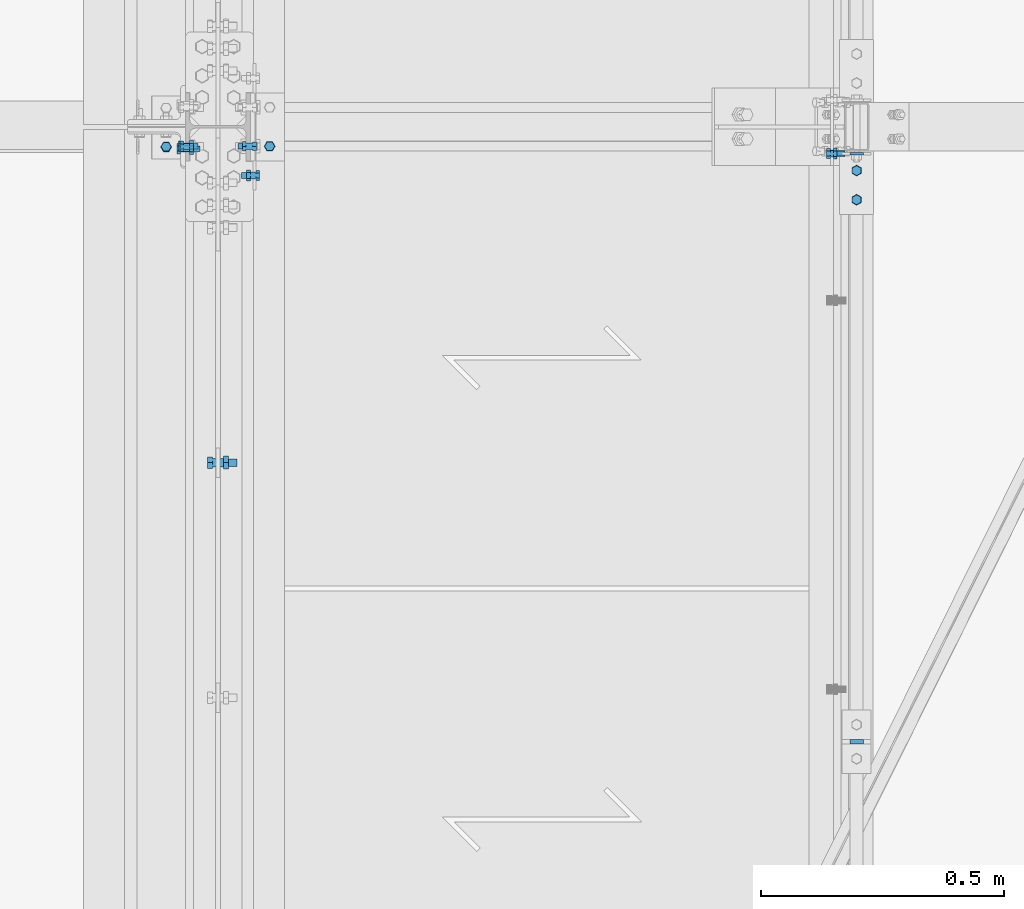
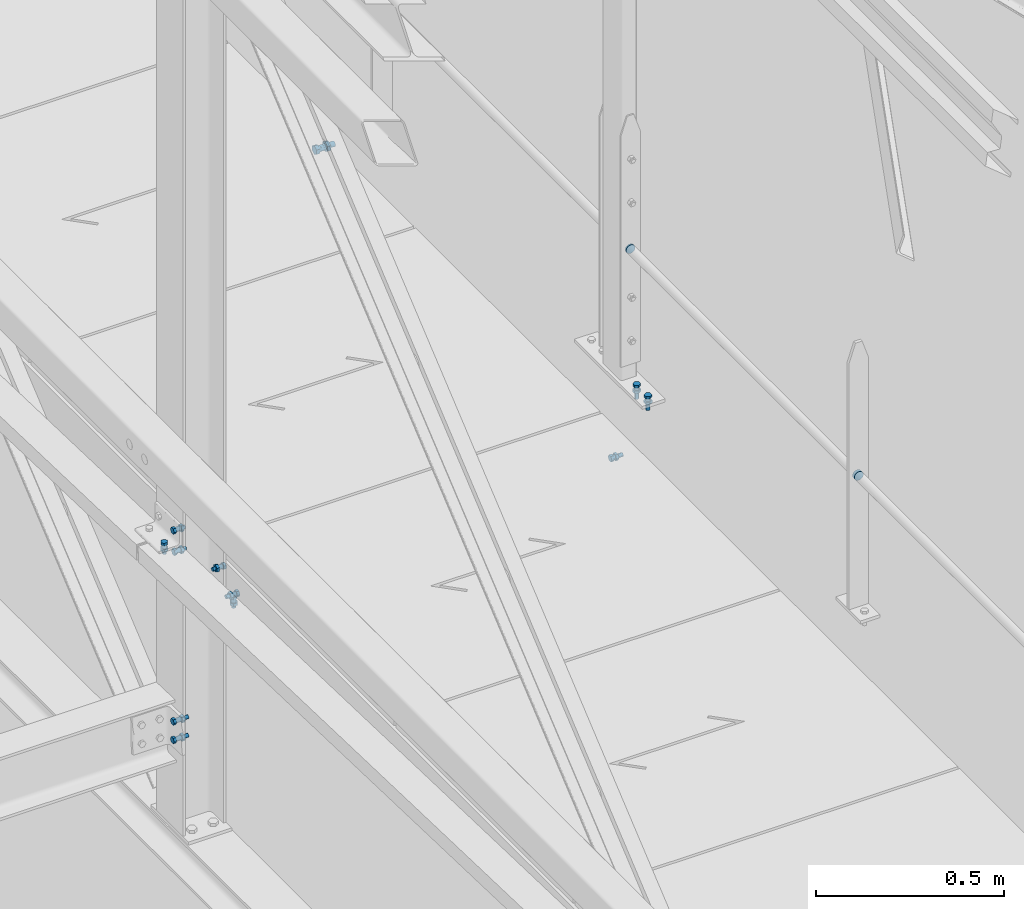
# One storey, part 326 of 362: 13 mechanical fasteners.
"""IFC2X3 building model written with IfcOpenShell, lengths in millimetres."""

from ifc_helpers import new_model, si_unit, frame, origin_with_axes, origin_2d_with_axis, place, context, subcontext, project, spatial, polyline, circle, outline, extrude, source, transform, mapped, material, type_object, element, save


model = new_model("IFC2X3")

# Units and contexts
model_context = context("Model", 3, precision=1e-05, world=origin_with_axes())
body_context = subcontext(model_context, "Body", "Model", "MODEL_VIEW")
ifc_project = project(units=[si_unit("LENGTHUNIT", "METRE", prefix="MILLI"), si_unit("AREAUNIT", "SQUARE_METRE"), si_unit("VOLUMEUNIT", "CUBIC_METRE"), si_unit("MASSUNIT", "GRAM", prefix="KILO"), si_unit("TIMEUNIT", "SECOND"), si_unit("PLANEANGLEUNIT", "RADIAN"), si_unit("SOLIDANGLEUNIT", "STERADIAN"), si_unit("THERMODYNAMICTEMPERATUREUNIT", "DEGREE_CELSIUS"), si_unit("LUMINOUSINTENSITYUNIT", "LUMEN")], contexts=[model_context])

# Site, building, storey
site_placement = place(None, origin_with_axes())
site = spatial("IfcSite", under=ifc_project, at=site_placement, Name="Undefined", CompositionType="ELEMENT")
building_placement = place(site_placement, origin_with_axes())
building = spatial("IfcBuilding", under=site, at=building_placement, Name="Undefined", CompositionType="ELEMENT")
storey_placement = place(building_placement, origin_with_axes())
storey = spatial("IfcBuildingStorey", under=building, at=storey_placement, Name="Undefined", CompositionType="ELEMENT", Elevation=0.0)

# Mechanical fasteners
ifc_material_1 = material(Name="8.8-SB-ZINGUE")
mechanical_fastener_type = type_object("IfcMechanicalFastenerType", Name="Bolt assembly")
shared_shape_1 = source(origin_with_axes(), body_context, "Body", "SweptSolid", [
    extrude(circle(Radius=9.0, at=origin_2d_with_axis()), frame((0.0, -10.9000000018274, 0.0), z_axis=(0.0, 1.0, 0.0), x_axis=(1.0, 0.0, 0.0)), (0.0, 0.0, 1.0), 6.0),
    extrude(circle(Radius=9.0, at=origin_2d_with_axis()), frame((0.0, 4.9000000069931, 0.0), z_axis=(0.0, 1.0, 0.0), x_axis=(1.0, 0.0, 0.0)), (0.0, 0.0, 1.0), 6.1),
    extrude(circle(Radius=9.0, at=origin_2d_with_axis()), frame((0.0, -3.99999923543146, 0.0), z_axis=(0.0, 1.0, 0.0), x_axis=(1.0, 0.0, 0.0)), (0.0, 0.0, 1.0), 8.0),
    extrude(outline(polyline([(13.85640646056, 0.0), (6.92820323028, 12.0000000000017), (-6.92820323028, 12.0000000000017), (-13.85640646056, 0.0), (-6.92820323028, -12.0000000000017), (6.92820323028, -12.0000000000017), (13.85640646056, 0.0)])), frame((0.0, -21.5600000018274, 0.0), z_axis=(0.0, 1.0, 0.0), x_axis=(1.0, 0.0, 0.0)), (0.0, 0.0, 1.0), 10.56),
    extrude(circle(Radius=8.0, at=origin_2d_with_axis()), frame((0.0, -11.0000000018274, 0.0), z_axis=(0.0, 1.0, 0.0), x_axis=(1.0, 0.0, 0.0)), (0.0, 0.0, 1.0), 50.0),
    extrude(outline(polyline([(15.3344231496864, 0.0), (7.6672115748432, 13.2800000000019), (-7.6672115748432, 13.2800000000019), (-15.3344231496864, 0.0), (-7.6672115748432, -13.2800000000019), (7.6672115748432, -13.2800000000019), (15.3344231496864, 0.0)])), frame((0.0, 11.0000000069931, 0.0), z_axis=(0.0, 1.0, 0.0), x_axis=(1.0, 0.0, 0.0)), (0.0, 0.0, 1.0), 10.56),
])
mechanical_fastener_1_placement = place(storey_placement, frame((34280.0, 10709.1073083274, 9846.10460240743), z_axis=(0.0, 1.0, 0.0), x_axis=(0.0, 0.0, 1.0)))
element("IfcMechanicalFastener", 1, at=mechanical_fastener_1_placement, inside=storey, type_object=mechanical_fastener_type, material=ifc_material_1, Name="Bolt assembly", NominalDiameter=16.0, NominalLength=50.0, context=body_context, shape_type="MappedRepresentation", body=[
    mapped(shared_shape_1, transform((0.0, 0.0, 0.0))),
])
shared_shape_2 = source(origin_with_axes(), body_context, "Body", "SweptSolid", [
    extrude(circle(Radius=7.0, at=origin_2d_with_axis()), frame((0.0, -10.0000010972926, 0.0), z_axis=(0.0, 1.0, 0.0), x_axis=(1.0, 0.0, 0.0)), (0.0, 0.0, 1.0), 10.1),
    extrude(outline(polyline([(10.39230484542, 0.0), (5.19615242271, 9.00000000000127), (-5.19615242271, 9.00000000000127), (-10.39230484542, 0.0), (-5.19615242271, -9.00000000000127), (5.19615242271, -9.00000000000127), (10.39230484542, 0.0)])), frame((0.0, -17.92, 0.0), z_axis=(0.0, 1.0, 0.0), x_axis=(1.0, 0.0, 0.0)), (0.0, 0.0, 1.0), 7.92),
    extrude(circle(Radius=6.0, at=origin_2d_with_axis()), frame((0.0, -10.0000010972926, 0.0), z_axis=(0.0, 1.0, 0.0), x_axis=(1.0, 0.0, 0.0)), (0.0, 0.0, 1.0), 40.0),
    extrude(outline(polyline([(11.5008173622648, 0.0), (5.7504086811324, 9.96000000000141), (-5.7504086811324, 9.96000000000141), (-11.5008173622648, 0.0), (-5.7504086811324, -9.96000000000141), (5.7504086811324, -9.96000000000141), (11.5008173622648, 0.0)])), frame((0.0, 0.0, 0.0), z_axis=(0.0, 1.0, 0.0), x_axis=(1.0, 0.0, 0.0)), (0.0, 0.0, 1.0), 7.92),
])
mechanical_fastener_2_placement = place(storey_placement, frame((35593.9917140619, 11250.000106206, 8240.00002612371), z_axis=(-1.0, 0.0, 0.0), x_axis=(0.0, 1.0, 0.0)))
element("IfcMechanicalFastener", 2, at=mechanical_fastener_2_placement, inside=storey, type_object=mechanical_fastener_type, material=ifc_material_1, Name="Bolt assembly", NominalDiameter=12.0, NominalLength=40.0, context=body_context, shape_type="MappedRepresentation", body=[
    mapped(shared_shape_2, transform((0.0, 0.0, 0.0))),
    mapped(shared_shape_2, transform((60.0, 0.0, 0.0))),
])
ifc_material_2 = material(Name="6.8")
shared_shape_3 = source(origin_with_axes(), body_context, "Body", "SweptSolid", [
    extrude(circle(Radius=14.0, at=origin_2d_with_axis()), frame((0.0, -5.00000000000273, 0.0), z_axis=(0.0, 1.0, 0.0), x_axis=(1.0, 0.0, 0.0)), (0.0, 0.0, 1.0), 10.1),
])
mechanical_fastener_3_placement = place(storey_placement, frame((35593.9917188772, 10135.0034325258, 8673.80000023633), z_axis=(0.0, 0.0, 1.0), x_axis=(-1.0, 0.0, 0.0)))
element("IfcMechanicalFastener", 3, at=mechanical_fastener_3_placement, inside=storey, type_object=mechanical_fastener_type, material=ifc_material_2, Name="Bolt assembly", NominalDiameter=27.0, NominalLength=10.0, context=body_context, shape_type="MappedRepresentation", body=[
    mapped(shared_shape_3, transform((0.0, 0.0, 0.0))),
])
shared_shape_4 = source(origin_with_axes(), body_context, "Body", "SweptSolid", [
    extrude(circle(Radius=7.0, at=origin_2d_with_axis()), frame((0.0, -4.90000000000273, 0.0), z_axis=(0.0, 1.0, 0.0), x_axis=(1.0, 0.0, 0.0)), (0.0, 0.0, 1.0), 5.0),
    extrude(circle(Radius=7.0, at=origin_2d_with_axis()), frame((0.0, -0.100011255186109, 0.0), z_axis=(0.0, 1.0, 0.0), x_axis=(1.0, 0.0, 0.0)), (0.0, 0.0, 1.0), 7.1),
    extrude(outline(polyline([(10.39230484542, 0.0), (5.19615242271, 9.00000000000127), (-5.19615242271, 9.00000000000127), (-10.39230484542, 0.0), (-5.19615242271, -9.00000000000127), (5.19615242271, -9.00000000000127), (10.39230484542, 0.0)])), frame((0.0, -12.9200004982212, 0.0), z_axis=(0.0, 1.0, 0.0), x_axis=(1.0, 0.0, 0.0)), (0.0, 0.0, 1.0), 7.92),
    extrude(circle(Radius=6.0, at=origin_2d_with_axis()), frame((0.0, -5.00000000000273, 0.0), z_axis=(0.0, 1.0, 0.0), x_axis=(1.0, 0.0, 0.0)), (0.0, 0.0, 1.0), 30.0),
    extrude(outline(polyline([(11.5008173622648, 0.0), (5.7504086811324, 9.96000000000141), (-5.7504086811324, 9.96000000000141), (-11.5008173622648, 0.0), (-5.7504086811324, -9.96000000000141), (5.7504086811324, -9.96000000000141), (11.5008173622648, 0.0)])), frame((0.0, 7.0, 0.0), z_axis=(0.0, 1.0, 0.0), x_axis=(1.0, 0.0, 0.0)), (0.0, 0.0, 1.0), 7.92),
])
mechanical_fastener_4_placement = place(storey_placement, frame((34386.5000576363, 11359.9999999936, 7950.00000000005), z_axis=(0.0, -1.0, 0.0), x_axis=(-1.0, 0.0, 0.0)))
element("IfcMechanicalFastener", 4, at=mechanical_fastener_4_placement, inside=storey, type_object=mechanical_fastener_type, material=ifc_material_1, Name="Bolt assembly", NominalDiameter=12.0, NominalLength=30.0, context=body_context, shape_type="MappedRepresentation", body=[
    mapped(shared_shape_4, transform((0.0, 0.0, 0.0))),
])
shared_shape_5 = source(origin_with_axes(), body_context, "Body", "SweptSolid", [
    extrude(circle(Radius=14.0, at=origin_2d_with_axis()), frame((0.0, -2.5, 0.0), z_axis=(0.0, 1.0, 0.0), x_axis=(1.0, 0.0, 0.0)), (0.0, 0.0, 1.0), 5.1),
])
mechanical_fastener_5_placement = place(storey_placement, frame((35593.9917197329, 11344.9999942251, 8673.79999937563), z_axis=(0.0, 0.0, 1.0), x_axis=(-1.0, 0.0, 0.0)))
element("IfcMechanicalFastener", 5, at=mechanical_fastener_5_placement, inside=storey, type_object=mechanical_fastener_type, material=ifc_material_2, Name="Bolt assembly", NominalDiameter=27.0, NominalLength=10.0, context=body_context, shape_type="MappedRepresentation", body=[
    mapped(shared_shape_5, transform((0.0, 0.0, 0.0))),
])
shared_shape_6 = source(origin_with_axes(), body_context, "Body", "SweptSolid", [
    extrude(circle(Radius=7.0, at=origin_2d_with_axis()), frame((0.0, -6.5, 0.0), z_axis=(0.0, 1.0, 0.0), x_axis=(1.0, 0.0, 0.0)), (0.0, 0.0, 1.0), 6.1),
    extrude(outline(polyline([(10.39230484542, 0.0), (5.19615242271, 9.00000000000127), (-5.19615242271, 9.00000000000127), (-10.39230484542, 0.0), (-5.19615242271, -9.00000000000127), (5.19615242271, -9.00000000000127), (10.39230484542, 0.0)])), frame((0.0, -14.42, 0.0), z_axis=(0.0, 1.0, 0.0), x_axis=(1.0, 0.0, 0.0)), (0.0, 0.0, 1.0), 7.92),
    extrude(circle(Radius=6.0, at=origin_2d_with_axis()), frame((0.0, -6.5, 0.0), z_axis=(0.0, 1.0, 0.0), x_axis=(1.0, 0.0, 0.0)), (0.0, 0.0, 1.0), 30.0),
    extrude(outline(polyline([(11.5008173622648, 0.0), (5.7504086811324, 9.96000000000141), (-5.7504086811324, 9.96000000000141), (-11.5008173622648, 0.0), (-5.7504086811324, -9.96000000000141), (5.7504086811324, -9.96000000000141), (11.5008173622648, 0.0)])), frame((0.0, -0.5, 0.0), z_axis=(0.0, 1.0, 0.0), x_axis=(1.0, 0.0, 0.0)), (0.0, 0.0, 1.0), 7.92),
])
mechanical_fastener_6_placement = place(storey_placement, frame((35546.4917140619, 11344.9999999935, 8015.00000000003), z_axis=(0.0, 0.0, -1.0), x_axis=(0.0, 1.0, 0.0)))
element("IfcMechanicalFastener", 6, at=mechanical_fastener_6_placement, inside=storey, type_object=mechanical_fastener_type, material=ifc_material_1, Name="Bolt assembly", NominalDiameter=12.0, NominalLength=30.0, context=body_context, shape_type="MappedRepresentation", body=[
    mapped(shared_shape_6, transform((0.0, 0.0, 0.0))),
])
shared_shape_7 = source(origin_with_axes(), body_context, "Body", "SweptSolid", [
    extrude(circle(Radius=7.0, at=origin_2d_with_axis()), frame((0.0, -0.107944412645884, 0.0), z_axis=(0.0, 1.0, 0.0), x_axis=(1.0, 0.0, 0.0)), (0.0, 0.0, 1.0), 5.1),
    extrude(circle(Radius=7.0, at=origin_2d_with_axis()), frame((0.0, -6.4, 0.0), z_axis=(0.0, 1.0, 0.0), x_axis=(1.0, 0.0, 0.0)), (0.0, 0.0, 1.0), 6.0),
    extrude(outline(polyline([(10.39230484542, 0.0), (5.19615242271, 9.00000000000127), (-5.19615242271, 9.00000000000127), (-10.39230484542, 0.0), (-5.19615242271, -9.00000000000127), (5.19615242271, -9.00000000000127), (10.39230484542, 0.0)])), frame((0.0, -14.42, 0.0), z_axis=(0.0, 1.0, 0.0), x_axis=(1.0, 0.0, 0.0)), (0.0, 0.0, 1.0), 7.92),
    extrude(circle(Radius=6.0, at=origin_2d_with_axis()), frame((0.0, -6.5, 0.0), z_axis=(0.0, 1.0, 0.0), x_axis=(1.0, 0.0, 0.0)), (0.0, 0.0, 1.0), 30.0),
    extrude(outline(polyline([(11.5008173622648, 0.0), (5.7504086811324, 9.96000000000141), (-5.7504086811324, 9.96000000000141), (-11.5008173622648, 0.0), (-5.7504086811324, -9.96000000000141), (5.7504086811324, -9.96000000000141), (11.5008173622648, 0.0)])), frame((0.0, 4.99205558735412, 0.0), z_axis=(0.0, 1.0, 0.0), x_axis=(1.0, 0.0, 0.0)), (0.0, 0.0, 1.0), 7.92),
])
mechanical_fastener_7_placement = place(storey_placement, frame((34351.491943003, 11299.9999999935, 8015.00000000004), z_axis=(0.0, 0.0, 1.0), x_axis=(0.0, 1.0, 0.0)))
element("IfcMechanicalFastener", 7, at=mechanical_fastener_7_placement, inside=storey, type_object=mechanical_fastener_type, material=ifc_material_1, Name="Bolt assembly", NominalDiameter=12.0, NominalLength=30.0, context=body_context, shape_type="MappedRepresentation", body=[
    mapped(shared_shape_7, transform((0.0, 0.0, 0.0))),
])
shared_shape_8 = source(origin_with_axes(), body_context, "Body", "SweptSolid", [
    extrude(circle(Radius=7.0, at=origin_2d_with_axis()), frame((0.0, -0.0999426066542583, 0.0), z_axis=(0.0, 1.0, 0.0), x_axis=(1.0, 0.0, 0.0)), (0.0, 0.0, 1.0), 8.6),
    extrude(circle(Radius=7.0, at=origin_2d_with_axis()), frame((0.0, -4.89983187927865, 0.0), z_axis=(0.0, 1.0, 0.0), x_axis=(1.0, 0.0, 0.0)), (0.0, 0.0, 1.0), 5.0),
    extrude(outline(polyline([(10.39230484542, 0.0), (5.19615242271, 9.00000000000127), (-5.19615242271, 9.00000000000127), (-10.39230484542, 0.0), (-5.19615242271, -9.00000000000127), (5.19615242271, -9.00000000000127), (10.39230484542, 0.0)])), frame((0.0, -12.9198318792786, 0.0), z_axis=(0.0, 1.0, 0.0), x_axis=(1.0, 0.0, 0.0)), (0.0, 0.0, 1.0), 7.92),
    extrude(circle(Radius=6.0, at=origin_2d_with_axis()), frame((0.0, -4.99983187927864, 0.0), z_axis=(0.0, 1.0, 0.0), x_axis=(1.0, 0.0, 0.0)), (0.0, 0.0, 1.0), 30.0),
    extrude(outline(polyline([(11.5008173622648, 0.0), (5.7504086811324, 9.96000000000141), (-5.7504086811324, 9.96000000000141), (-11.5008173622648, 0.0), (-5.7504086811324, -9.96000000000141), (5.7504086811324, -9.96000000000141), (11.5008173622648, 0.0)])), frame((0.0, 8.50005763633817, 0.0), z_axis=(0.0, 1.0, 0.0), x_axis=(1.0, 0.0, 0.0)), (0.0, 0.0, 1.0), 7.92),
])
mechanical_fastener_8_placement = place(storey_placement, frame((34346.5000576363, 11360.0000009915, 8070.00000000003), z_axis=(0.0, 1.0, 0.0), x_axis=(0.0, 0.0, -1.0)))
element("IfcMechanicalFastener", 8, at=mechanical_fastener_8_placement, inside=storey, type_object=mechanical_fastener_type, material=ifc_material_1, Name="Bolt assembly", NominalDiameter=12.0, NominalLength=30.0, context=body_context, shape_type="MappedRepresentation", body=[
    mapped(shared_shape_8, transform((0.0, 0.0, 0.0))),
])
shared_shape_9 = source(origin_with_axes(), body_context, "Body", "SweptSolid", [
    extrude(circle(Radius=7.0, at=origin_2d_with_axis()), frame((0.0, -1.35657197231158, 0.0), z_axis=(0.0, 1.0, 0.0), x_axis=(1.0, 0.0, 0.0)), (0.0, 0.0, 1.0), 4.1),
    extrude(circle(Radius=7.0, at=origin_2d_with_axis()), frame((0.0, -8.15654244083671, 0.0), z_axis=(0.0, 1.0, 0.0), x_axis=(1.0, 0.0, 0.0)), (0.0, 0.0, 1.0), 7.0),
    extrude(outline(polyline([(10.39230484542, 0.0), (5.19615242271, 9.00000000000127), (-5.19615242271, 9.00000000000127), (-10.39230484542, 0.0), (-5.19615242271, -9.00000000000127), (5.19615242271, -9.00000000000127), (10.39230484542, 0.0)])), frame((0.0, -16.1765424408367, 0.0), z_axis=(0.0, 1.0, 0.0), x_axis=(1.0, 0.0, 0.0)), (0.0, 0.0, 1.0), 7.92),
    extrude(circle(Radius=6.0, at=origin_2d_with_axis()), frame((0.0, -8.25654244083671, 0.0), z_axis=(0.0, 1.0, 0.0), x_axis=(1.0, 0.0, 0.0)), (0.0, 0.0, 1.0), 30.0),
    extrude(outline(polyline([(11.5008173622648, 0.0), (5.7504086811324, 9.96000000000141), (-5.7504086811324, 9.96000000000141), (-11.5008173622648, 0.0), (-5.7504086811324, -9.96000000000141), (5.7504086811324, -9.96000000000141), (11.5008173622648, 0.0)])), frame((0.0, 2.74342802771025, 0.0), z_axis=(0.0, 1.0, 0.0), x_axis=(1.0, 0.0, 0.0)), (0.0, 0.0, 1.0), 7.92),
])
mechanical_fastener_9_placement = place(storey_placement, frame((34173.5002326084, 11358.7434557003, 8197.04057146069), z_axis=(3.14103090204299e-11, 0.999506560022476, -0.0314107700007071), x_axis=(1.0, 0.0, 0.0)))
element("IfcMechanicalFastener", 9, at=mechanical_fastener_9_placement, inside=storey, type_object=mechanical_fastener_type, material=ifc_material_1, Name="Bolt assembly", NominalDiameter=12.0, NominalLength=30.0, context=body_context, shape_type="MappedRepresentation", body=[
    mapped(shared_shape_9, transform((0.0, 0.0, 0.0))),
])
shared_shape_10 = source(origin_with_axes(), body_context, "Body", "SweptSolid", [
    extrude(circle(Radius=7.0, at=origin_2d_with_axis()), frame((0.0, -0.10007666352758, 0.0), z_axis=(0.0, 1.0, 0.0), x_axis=(1.0, 0.0, 0.0)), (0.0, 0.0, 1.0), 8.6),
    extrude(circle(Radius=7.0, at=origin_2d_with_axis()), frame((0.0, -6.9, 0.0), z_axis=(0.0, 1.0, 0.0), x_axis=(1.0, 0.0, 0.0)), (0.0, 0.0, 1.0), 7.0),
    extrude(outline(polyline([(10.39230484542, 0.0), (5.19615242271, 9.00000000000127), (-5.19615242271, 9.00000000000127), (-10.39230484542, 0.0), (-5.19615242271, -9.00000000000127), (5.19615242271, -9.00000000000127), (10.39230484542, 0.0)])), frame((0.0, -14.92, 0.0), z_axis=(0.0, 1.0, 0.0), x_axis=(1.0, 0.0, 0.0)), (0.0, 0.0, 1.0), 7.92),
    extrude(circle(Radius=6.0, at=origin_2d_with_axis()), frame((0.0, -7.0, 0.0), z_axis=(0.0, 1.0, 0.0), x_axis=(1.0, 0.0, 0.0)), (0.0, 0.0, 1.0), 30.0),
    extrude(outline(polyline([(11.5008173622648, 0.0), (5.7504086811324, 9.96000000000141), (-5.7504086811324, 9.96000000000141), (-11.5008173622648, 0.0), (-5.7504086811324, -9.96000000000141), (5.7504086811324, -9.96000000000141), (11.5008173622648, 0.0)])), frame((0.0, 8.49988372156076, 0.0), z_axis=(0.0, 1.0, 0.0), x_axis=(1.0, 0.0, 0.0)), (0.0, 0.0, 1.0), 7.92),
])
mechanical_fastener_10_placement = place(storey_placement, frame((34213.5001162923, 11359.999998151, 8238.27799323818), z_axis=(0.0, 0.0, 1.0), x_axis=(0.0, -1.0, 0.0)))
element("IfcMechanicalFastener", 10, at=mechanical_fastener_10_placement, inside=storey, type_object=mechanical_fastener_type, material=ifc_material_1, Name="Bolt assembly", NominalDiameter=12.0, NominalLength=30.0, context=body_context, shape_type="MappedRepresentation", body=[
    mapped(shared_shape_10, transform((0.0, 0.0, 0.0))),
])
shared_shape_11 = source(origin_with_axes(), body_context, "Body", "SweptSolid", [
    extrude(circle(Radius=7.0, at=origin_2d_with_axis()), frame((0.0, -0.10007666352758, 0.0), z_axis=(0.0, 1.0, 0.0), x_axis=(1.0, 0.0, 0.0)), (0.0, 0.0, 1.0), 8.6),
    extrude(circle(Radius=7.0, at=origin_2d_with_axis()), frame((0.0, -3.89999843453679, 0.0), z_axis=(0.0, 1.0, 0.0), x_axis=(1.0, 0.0, 0.0)), (0.0, 0.0, 1.0), 4.0),
    extrude(outline(polyline([(10.39230484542, 0.0), (5.19615242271, 9.00000000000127), (-5.19615242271, 9.00000000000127), (-10.39230484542, 0.0), (-5.19615242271, -9.00000000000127), (5.19615242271, -9.00000000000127), (10.39230484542, 0.0)])), frame((0.0, -11.9199984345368, 0.0), z_axis=(0.0, 1.0, 0.0), x_axis=(1.0, 0.0, 0.0)), (0.0, 0.0, 1.0), 7.92),
    extrude(circle(Radius=6.0, at=origin_2d_with_axis()), frame((0.0, -3.99999923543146, 0.0), z_axis=(0.0, 1.0, 0.0), x_axis=(1.0, 0.0, 0.0)), (0.0, 0.0, 1.0), 30.0),
    extrude(outline(polyline([(11.5008173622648, 0.0), (5.7504086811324, 9.96000000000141), (-5.7504086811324, 9.96000000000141), (-11.5008173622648, 0.0), (-5.7504086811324, -9.96000000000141), (5.7504086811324, -9.96000000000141), (11.5008173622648, 0.0)])), frame((0.0, 8.49988372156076, 0.0), z_axis=(0.0, 1.0, 0.0), x_axis=(1.0, 0.0, 0.0)), (0.0, 0.0, 1.0), 7.92),
])
mechanical_fastener_11_placement = place(storey_placement, frame((34213.5001162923, 11359.999998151, 8168.24342924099), z_axis=(0.0, 0.0, 1.0), x_axis=(0.0, -1.0, 0.0)))
element("IfcMechanicalFastener", 11, at=mechanical_fastener_11_placement, inside=storey, type_object=mechanical_fastener_type, material=ifc_material_1, Name="Bolt assembly", NominalDiameter=12.0, NominalLength=30.0, context=body_context, shape_type="MappedRepresentation", body=[
    mapped(shared_shape_11, transform((0.0, 0.0, 0.0))),
])
shared_shape_12 = source(origin_with_axes(), body_context, "Body", "SweptSolid", [
    extrude(circle(Radius=7.0, at=origin_2d_with_axis()), frame((0.0, -0.100011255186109, 0.0), z_axis=(0.0, 1.0, 0.0), x_axis=(1.0, 0.0, 0.0)), (0.0, 0.0, 1.0), 8.6),
    extrude(circle(Radius=7.0, at=origin_2d_with_axis()), frame((0.0, -9.9, 0.0), z_axis=(0.0, 1.0, 0.0), x_axis=(1.0, 0.0, 0.0)), (0.0, 0.0, 1.0), 10.0),
    extrude(outline(polyline([(10.39230484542, 0.0), (5.19615242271, 9.00000000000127), (-5.19615242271, 9.00000000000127), (-10.39230484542, 0.0), (-5.19615242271, -9.00000000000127), (5.19615242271, -9.00000000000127), (10.39230484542, 0.0)])), frame((0.0, -17.92, 0.0), z_axis=(0.0, 1.0, 0.0), x_axis=(1.0, 0.0, 0.0)), (0.0, 0.0, 1.0), 7.92),
    extrude(circle(Radius=6.0, at=origin_2d_with_axis()), frame((0.0, -10.0000010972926, 0.0), z_axis=(0.0, 1.0, 0.0), x_axis=(1.0, 0.0, 0.0)), (0.0, 0.0, 1.0), 40.0),
    extrude(outline(polyline([(11.5008173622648, 0.0), (5.7504086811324, 9.96000000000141), (-5.7504086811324, 9.96000000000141), (-11.5008173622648, 0.0), (-5.7504086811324, -9.96000000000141), (5.7504086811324, -9.96000000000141), (11.5008173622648, 0.0)])), frame((0.0, 8.49999994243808, 0.0), z_axis=(0.0, 1.0, 0.0), x_axis=(1.0, 0.0, 0.0)), (0.0, 0.0, 1.0), 7.92),
])
for number, where, z_axis, x_axis, name in (
    (12, (34213.5000013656, 11354.9999999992, 7563.0887767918), (0.0, 0.0, 1.0), (0.0, -1.0, 0.0), "Bolt assembly"),
    (13, (34213.5000013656, 11354.9999999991, 7623.11839865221), (0.0, 0.0, 1.0), (0.0, -1.0, 0.0), "Bolt assembly"),
):
    element("IfcMechanicalFastener", number, at=place(storey_placement, frame(where, z_axis=z_axis, x_axis=x_axis)), inside=storey, type_object=mechanical_fastener_type, material=ifc_material_1, Name=name, NominalDiameter=12.0, NominalLength=40.0, context=body_context, shape_type="MappedRepresentation", body=[
        mapped(shared_shape_12, transform((0.0, 0.0, 0.0))),
    ])

save(model, "model.ifc")
